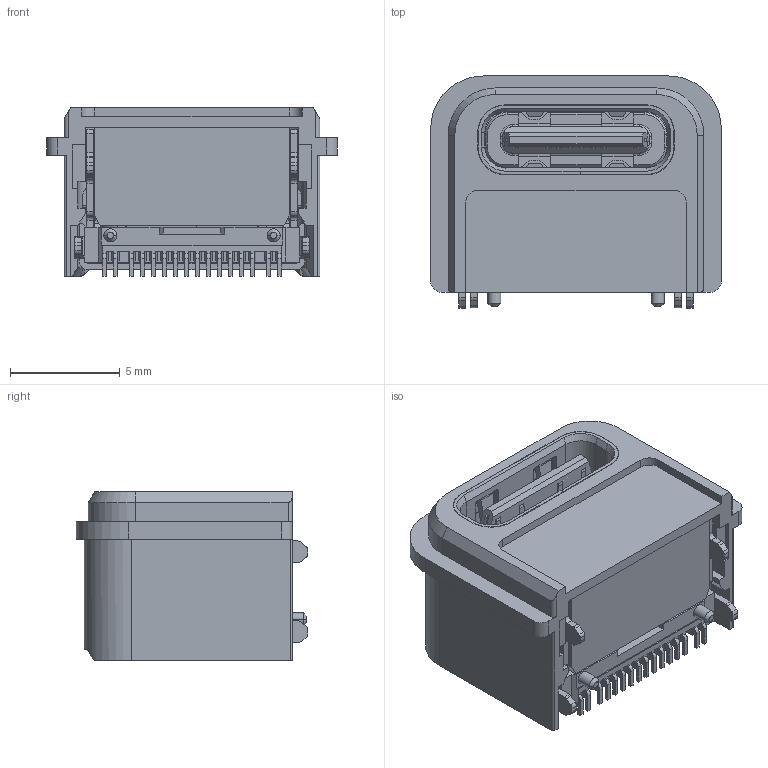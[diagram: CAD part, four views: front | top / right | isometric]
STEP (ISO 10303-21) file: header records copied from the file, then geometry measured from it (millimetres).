
FILE_DESCRIPTION (( 'STEP AP203' ), '1' );
FILE_NAME ('GT-USB-7043B.STEP', '2023-07-22T09:08:01', ( '' ), ( '' ), 'SwSTEP 2.0', 'SolidWorks 2023', '' );
FILE_SCHEMA (( 'CONFIG_CONTROL_DESIGN' ));
Length unit declared in the file: millimetre
Products named in the file (4): GT-USB-7043B.STEP; GT-USB-7043B.stp.STEP; PRT0014.stp.STEP; GT-USB-7043B
Assembly tree (3 placements, depth 4):
  GT-USB-7043B
    GT-USB-7043B.STEP
      GT-USB-7043B.stp.STEP
        PRT0014.stp.STEP
Bounding box: 13.27 x 10.59 x 7.7 mm (x, y, z)
Volume: 565.9 mm3; surface area: 1878.5 mm2
Topology: 2 solids, 2 shells, 1649 faces, 4714 edges, 3057 vertices
Faces by surface type: plane 1095, cylinder 421, bspline 92, cone 37, torus 4
Entity records: 58718 total; most frequent: CARTESIAN_POINT 15974, ORIENTED_EDGE 9428, DIRECTION 8047, EDGE_CURVE 4714, LINE 3249, VECTOR 3249, VERTEX_POINT 3057, AXIS2_PLACEMENT_3D 2399
